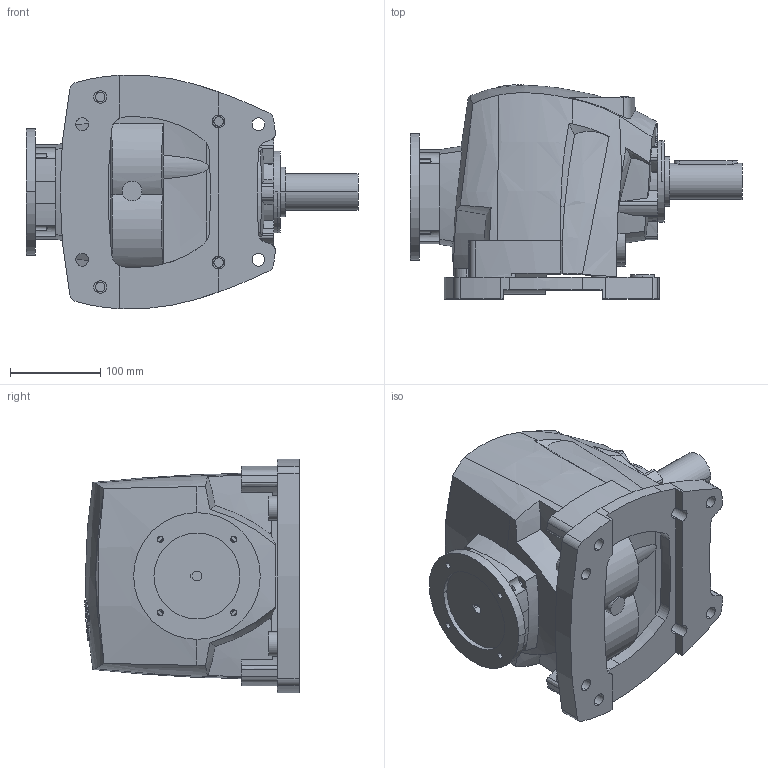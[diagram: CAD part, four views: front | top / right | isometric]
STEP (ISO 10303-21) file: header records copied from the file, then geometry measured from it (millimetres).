
FILE_DESCRIPTION((''),'2;1');
FILE_NAME('R35_SW_PAM63_D2','2013-11-05T',('Luca'),(''),'PRO/ENGINEER BY PARAMETRIC TECHNOLOGY CORPORATION, 2008230','PRO/ENGINEER BY PARAMETRIC TECHNOLOGY CORPORATION, 2008230','');
FILE_SCHEMA(('CONFIG_CONTROL_DESIGN'));
Length unit declared in the file: millimetre
Products named in the file (1): R35_SW_PAM63_D2
Bounding box: 367.06 x 236.95 x 257.96 mm (x, y, z)
Volume: 9415444.1 mm3; surface area: 411577.3 mm2
Topology: 1 solids, 7 shells, 513 faces, 1407 edges, 938 vertices
Faces by surface type: cylinder 191, plane 127, extrusion 101, bspline 65, cone 20, torus 9
Entity records: 25050 total; most frequent: CARTESIAN_POINT 12975, ORIENTED_EDGE 2808, DIRECTION 1958, EDGE_CURVE 1404, VERTEX_POINT 938, AXIS2_PLACEMENT_3D 683, B_SPLINE_CURVE_WITH_KNOTS 678, VECTOR 592
